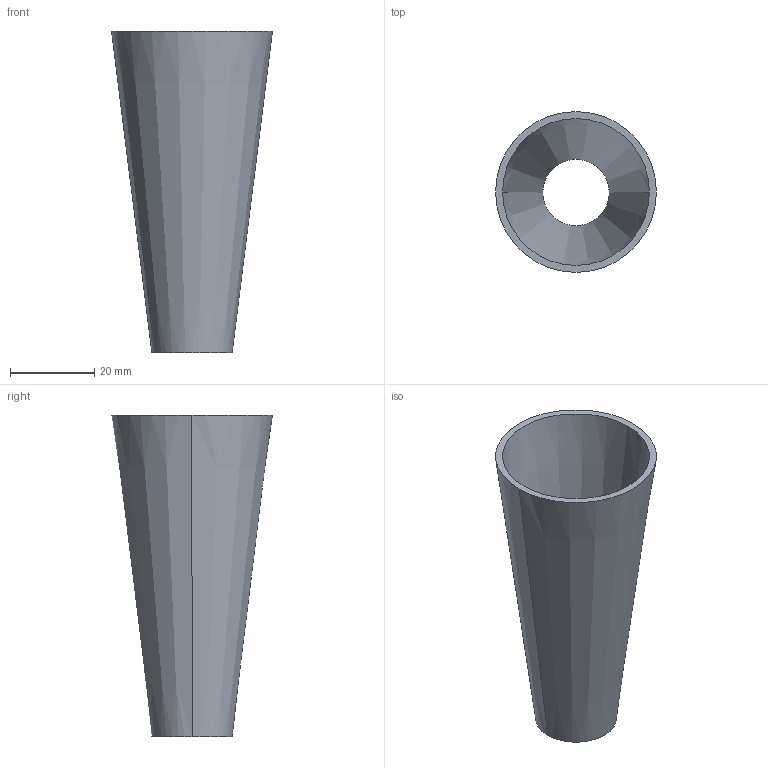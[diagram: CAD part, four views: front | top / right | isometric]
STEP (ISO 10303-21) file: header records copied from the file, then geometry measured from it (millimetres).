
FILE_DESCRIPTION (( 'STEP AP214' ), '1' );
FILE_NAME ('E31WW 1.5X.75 REV2.STEP', '2025-07-29T13:04:49', ( '' ), ( '' ), 'SwSTEP 2.0', 'SolidWorks 2022', '' );
FILE_SCHEMA (( 'AUTOMOTIVE_DESIGN' ));
Length unit declared in the file: inch
Products named in the file (1): E31WW 1.5X.75 REV2
Bounding box: 38.1 x 38.1 x 76.2 mm (x, y, z)
Volume: 10641.2 mm3; surface area: 13270.3 mm2
Topology: 1 solids, 1 shells, 6 faces, 12 edges, 8 vertices
Faces by surface type: cone 4, plane 2
Entity records: 208 total; most frequent: DIRECTION 34, CARTESIAN_POINT 27, ORIENTED_EDGE 24, AXIS2_PLACEMENT_3D 15, EDGE_CURVE 12, VERTEX_POINT 8, CIRCLE 8, EDGE_LOOP 8
